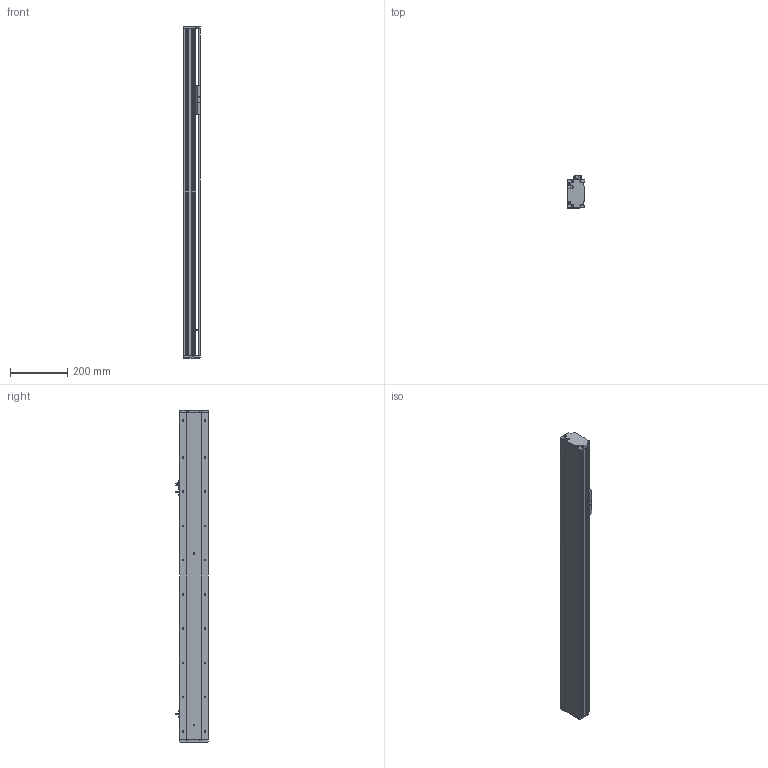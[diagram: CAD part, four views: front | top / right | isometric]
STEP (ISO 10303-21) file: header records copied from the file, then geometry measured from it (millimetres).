
FILE_DESCRIPTION (( 'STEP AP214' ), '1' );
FILE_NAME ('KSD100S-S800-M-CM.STEP', '2019-08-30T00:59:31', ( '微软用户' ), ( '微软中国' ), 'SwSTEP 2.0', 'SolidWorks 2014', '' );
FILE_SCHEMA (( 'AUTOMOTIVE_DESIGN' ));
Length unit declared in the file: millimetre
Products named in the file (8): 覜茼え100遵圉猾敕; U倰嫖萇EEㄜSX672; 100宽防尘板丝杆800行程电机内装; 100宽马达安装板-电机内装; 100宽滚珠螺姆安装板半封闭; 100遵傷啣; 100宽底板半封闭丝杆800行程电机内装; KSD100S-S800-M-CM
Assembly tree (9 placements, depth 2):
  KSD100S-S800-M-CM
    100宽底板半封闭丝杆800行程电机内装
    100遵傷啣
    100宽滚珠螺姆安装板半封闭
    100宽马达安装板-电机内装
    100宽防尘板丝杆800行程电机内装
    U倰嫖萇EEㄜSX672  x3
    覜茼え100遵圉猾敕
Bounding box: 60 x 113.7 x 1163 mm (x, y, z)
Volume: 2215254.3 mm3; surface area: 804405.1 mm2
Topology: 9 solids, 9 shells, 1123 faces, 3206 edges, 2013 vertices
Faces by surface type: cylinder 534, plane 452, cone 137
Entity records: 39544 total; most frequent: CARTESIAN_POINT 8382, DIRECTION 5123, ORIENTED_EDGE 5040, EDGE_CURVE 2520, AXIS2_PLACEMENT_3D 1846, VERTEX_POINT 1637, LINE 1431, VECTOR 1431
